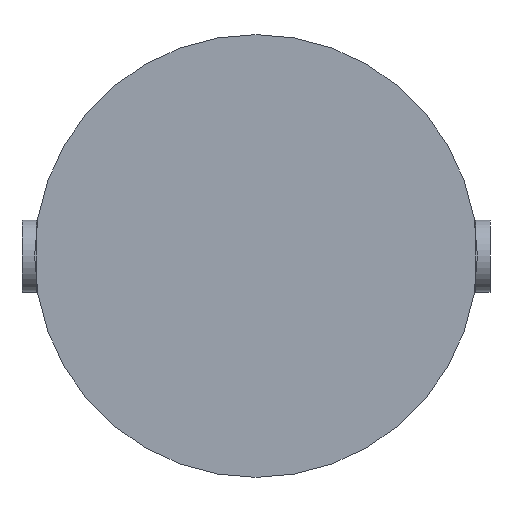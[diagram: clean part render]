
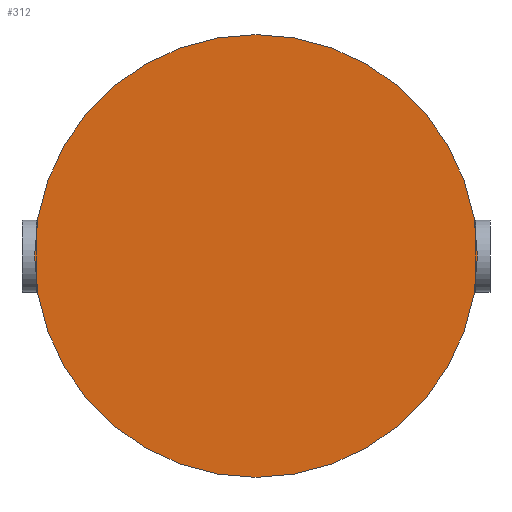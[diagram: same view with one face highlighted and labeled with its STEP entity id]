
A CAD part, front view. The second image highlights one B-rep face of the part: STEP entity #312.
In plain terms, the highlighted planar face has unit normal (0, -1, 0).
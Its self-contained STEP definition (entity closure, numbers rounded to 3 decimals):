
#2=CARTESIAN_POINT('',(0.,0.,0.));
#3=DIRECTION('',(0.,-1.,0.));
#4=DIRECTION('',(-1.,0.,0.));
#5=AXIS2_PLACEMENT_3D('',#2,#3,#4);
#7=CARTESIAN_POINT('',(0.,0.,0.));
#8=DIRECTION('',(0.,1.,0.));
#9=DIRECTION('',(-1.,0.,0.));
#10=AXIS2_PLACEMENT_3D('',#7,#8,#9);
#273=CARTESIAN_POINT('',(-61.5,0.,0.));
#274=CARTESIAN_POINT('',(61.5,0.,0.));
#275=VERTEX_POINT('',#273);
#276=VERTEX_POINT('',#274);
#301=CARTESIAN_POINT('',(0.,0.,0.));
#302=DIRECTION('',(0.,1.,0.));
#303=DIRECTION('',(1.,0.,0.));
#304=AXIS2_PLACEMENT_3D('',#301,#302,#303);
#305=PLANE('',#304);
#307=ORIENTED_EDGE('',*,*,#306,.F.);
#309=ORIENTED_EDGE('',*,*,#308,.T.);
#310=EDGE_LOOP('',(#307,#309));
#311=FACE_OUTER_BOUND('',#310,.F.);
#312=ADVANCED_FACE('',(#311),#305,.F.);
#6=CIRCLE('',#5,61.5);
#11=CIRCLE('',#10,61.5);
#306=EDGE_CURVE('',#275,#276,#6,.T.);
#308=EDGE_CURVE('',#275,#276,#11,.T.);
